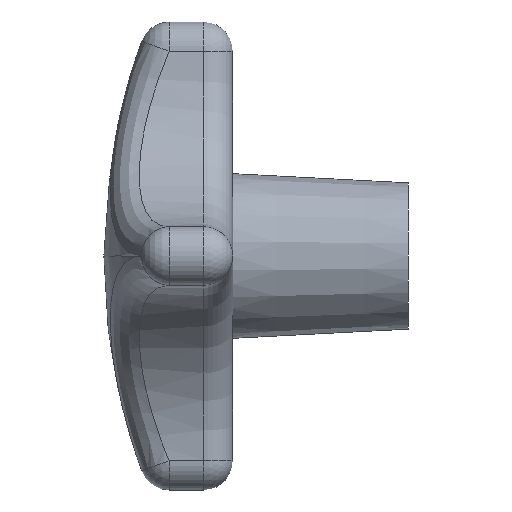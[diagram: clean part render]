
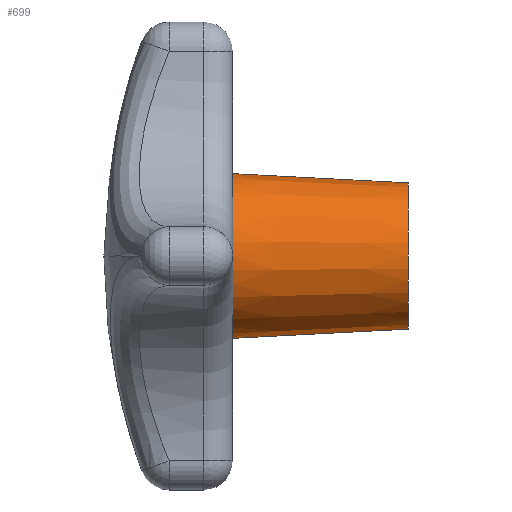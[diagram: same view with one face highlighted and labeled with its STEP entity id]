
A CAD part, left-side view. The second image highlights one B-rep face of the part: STEP entity #699.
In plain terms, the highlighted conical face has half-angle 3 degrees and reference radius 12.5 mm.
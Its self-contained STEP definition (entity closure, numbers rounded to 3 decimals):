
#503 = ORIENTED_EDGE ( 'NONE', *, *, #669, .F. ) ;
#504 = ORIENTED_EDGE ( 'NONE', *, *, #505, .T. ) ;
#505 = EDGE_CURVE ( 'NONE', #667, #666, #1348, .T. ) ;
#506 = ORIENTED_EDGE ( 'NONE', *, *, #685, .T. ) ;
#507 = ORIENTED_EDGE ( 'NONE', *, *, #698, .F. ) ;
#666 = VERTEX_POINT ( 'NONE', #2672 ) ;
#667 = VERTEX_POINT ( 'NONE', #2671 ) ;
#669 = EDGE_CURVE ( 'NONE', #667, #670, #2670, .T. ) ;
#670 = VERTEX_POINT ( 'NONE', #2666 ) ;
#683 = VERTEX_POINT ( 'NONE', #2730 ) ;
#685 = EDGE_CURVE ( 'NONE', #666, #683, #2729, .T. ) ;
#698 = EDGE_CURVE ( 'NONE', #670, #683, #2762, .T. ) ;
#699 = ADVANCED_FACE ( 'NONE', ( #2758 ), #2757, .T. ) ;
#700 = EDGE_LOOP ( 'NONE', ( #503, #504, #506, #507 ) ) ;
#1348 = CIRCLE ( 'NONE', #1374, 12.5 ) ;
#1371 = DIRECTION ( 'NONE',  ( 0., 0., 1. ) ) ;
#1372 = DIRECTION ( 'NONE',  ( 0., 1., 0. ) ) ;
#1373 = CARTESIAN_POINT ( 'NONE',  ( 0., -30., 0. ) ) ;
#1374 = AXIS2_PLACEMENT_3D ( 'NONE', #1373, #1372, #1371 ) ;
#2666 = CARTESIAN_POINT ( 'NONE',  ( 0., 0., -14.072 ) ) ;
#2667 = DIRECTION ( 'NONE',  ( 0., 0.999, -0.052 ) ) ;
#2668 = VECTOR ( 'NONE', #2667, 1000. ) ;
#2669 = CARTESIAN_POINT ( 'NONE',  ( 0., -30., -12.5 ) ) ;
#2670 = LINE ( 'NONE', #2669, #2668 ) ;
#2671 = CARTESIAN_POINT ( 'NONE',  ( 0., -30., -12.5 ) ) ;
#2672 = CARTESIAN_POINT ( 'NONE',  ( 0., -30., 12.5 ) ) ;
#2726 = DIRECTION ( 'NONE',  ( 0., 0.999, 0.052 ) ) ;
#2727 = VECTOR ( 'NONE', #2726, 1000. ) ;
#2728 = CARTESIAN_POINT ( 'NONE',  ( 0., -30., 12.5 ) ) ;
#2729 = LINE ( 'NONE', #2728, #2727 ) ;
#2730 = CARTESIAN_POINT ( 'NONE',  ( 0., 0., 14.072 ) ) ;
#2753 = DIRECTION ( 'NONE',  ( 0., 0., 1. ) ) ;
#2754 = DIRECTION ( 'NONE',  ( 0., 1., 0. ) ) ;
#2755 = AXIS2_PLACEMENT_3D ( 'NONE', #2756, #2754, #2753 ) ;
#2756 = CARTESIAN_POINT ( 'NONE',  ( 0., -30., 0. ) ) ;
#2757 = CONICAL_SURFACE ( 'NONE', #2755, 12.5, 0.052 ) ;
#2758 = FACE_OUTER_BOUND ( 'NONE', #700, .T. ) ;
#2759 = DIRECTION ( 'NONE',  ( 0., 0., 1. ) ) ;
#2760 = DIRECTION ( 'NONE',  ( 0., 1., 0. ) ) ;
#2761 = AXIS2_PLACEMENT_3D ( 'NONE', #2768, #2760, #2759 ) ;
#2762 = CIRCLE ( 'NONE', #2761, 14.072 ) ;
#2768 = CARTESIAN_POINT ( 'NONE',  ( 0., 0., 0. ) ) ;
